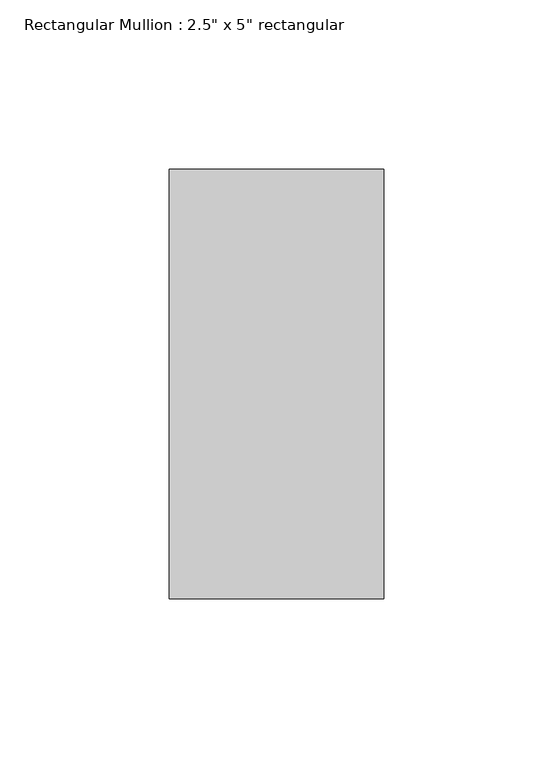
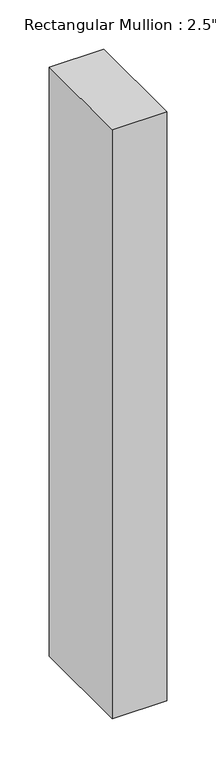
"""IFC4 building model written with IfcOpenShell, lengths in millimetres: member geometry."""

from ifc_helpers import new_model, si_unit, frame, origin, place, context, project, spatial, polyline, outline, extrude, source, transform, mapped, element, save


def member_51d7af99(model_context):
    return source(origin(), model_context, "Body", "SweptSolid", [
        extrude(outline(polyline([(31.75, 63.5), (31.75, -63.5), (-31.75, -63.5), (-31.75, 63.5), (31.75, 63.5)])), frame((0.0, 0.0, -727.0841402), z_axis=(0.0, 0.0, 1.0), x_axis=(1.0, 0.0, 0.0)), (0.0, 0.0, 1.0), 727.0841402),
    ])


if __name__ == "__main__":
    model = new_model("IFC4")
    model_context = context("Model", 3, world=origin())
    ifc_project = project(units=[si_unit("LENGTHUNIT", "METRE", prefix="MILLI")], contexts=[model_context])
    site = spatial("IfcSite", under=ifc_project)
    building = spatial("IfcBuilding", under=site)
    placement = place(None, origin())
    member_shape = member_51d7af99(model_context)
    element("IfcMember", 1, ObjectType="Rectangular Mullion : 2.5\" x 5\" rectangular", at=placement, inside=building, context=model_context, shape_type="MappedRepresentation", body=[
        mapped(member_shape, transform((0.0, 0.0, 0.0), x_axis=(1.0, 0.0, 0.0), y_axis=(0.0, 1.0, 0.0), z_axis=(0.0, 0.0, 1.0))),
    ])
    save(model, "model.ifc")
